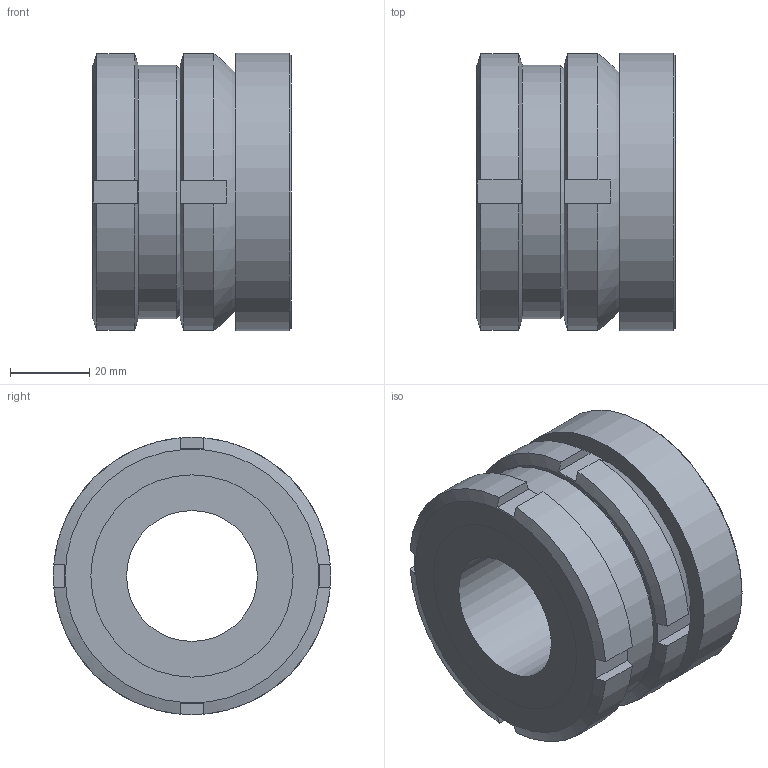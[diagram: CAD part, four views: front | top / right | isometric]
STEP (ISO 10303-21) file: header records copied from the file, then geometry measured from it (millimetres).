
FILE_DESCRIPTION( ( 'STEP AP203' ), '1' );
FILE_NAME( 'C:/Temp/Ganter_Step_05_03_2020/data/3_2/gn350_2/gn_350_2_ni/Stainless Steel-Levelling set GN 350.2-70-33-50-NI (0-0).stp', '2020-03-13T05:28:16', ( 'License CC BY-ND 4.0' ), ( 'CADENAS' ), ' ', 'PARTsolutions', ' ' );
FILE_SCHEMA( ( 'CONFIG_CONTROL_DESIGN' ) );
Length unit declared in the file: millimetre
Products named in the file (4): Stainless Steel-Levelling set GN 350.2-70-33-50-NI (0-0); _Levelling set GN 350.2-70-33-50-ST-G; _Levelling set GN 350.2-70-33-50-ST-K; _Levelling set GN 350.2-70-33-50-ST-P(0)
Assembly tree (3 placements, depth 2):
  Stainless Steel-Levelling set GN 350.2-70-33-50-NI (0-0)
    _Levelling set GN 350.2-70-33-50-ST-G
    _Levelling set GN 350.2-70-33-50-ST-K
    _Levelling set GN 350.2-70-33-50-ST-P(0)
Bounding box: 50 x 70 x 70 mm (x, y, z)
Volume: 134353.4 mm3; surface area: 39706.6 mm2
Topology: 3 solids, 3 shells, 62 faces, 149 edges, 99 vertices
Faces by surface type: plane 36, cylinder 19, cone 5, sphere 2
Full cylindrical faces by diameter (mm): 33 x1, 40 x1, 43.529 x1, 44.5 x1, 48.376 x1, 49 x1, 50 x1, 51 x2, 64 x1, 70 x1
Entity records: 1925 total; most frequent: CARTESIAN_POINT 462, DIRECTION 276, ORIENTED_EDGE 248, EDGE_CURVE 124, AXIS2_PLACEMENT_3D 122, EDGE_LOOP 92, VERTEX_POINT 92, FACE_OUTER_BOUND 75
